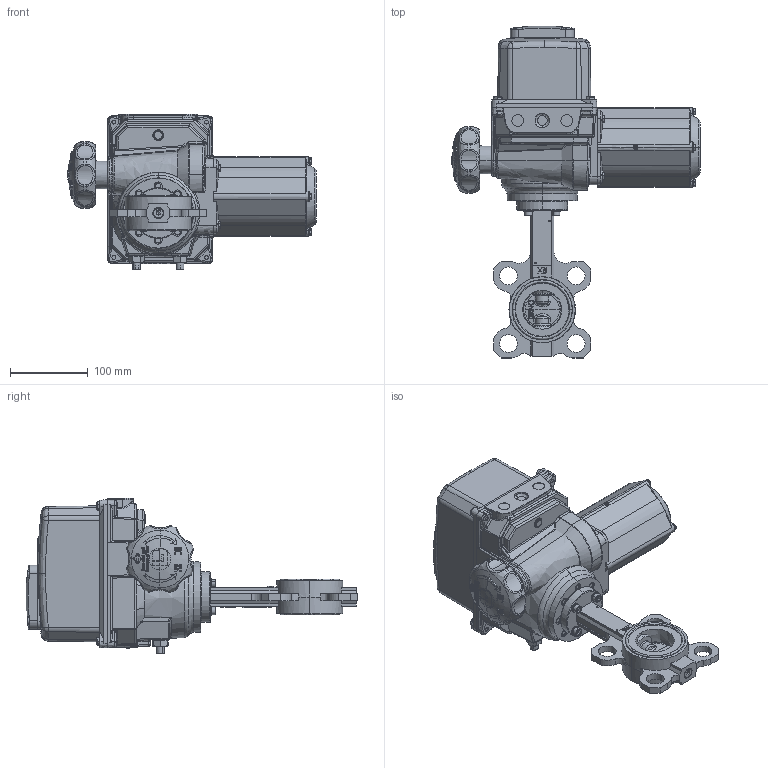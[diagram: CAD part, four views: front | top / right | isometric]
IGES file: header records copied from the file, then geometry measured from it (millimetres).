
Start section: SolidWorks IGES file using NURBS representation for surfaces
Global section: file name: H:\BE BIBLIOTHEQUE 3D\Projet_Biblio3D_2016\FSK\VPI\VPI-B04\VPI-B04 DN50.Igs; native system: SolidWorks 2014; preprocessor: SolidWorks 2014; author: a.cartier; date: 160929.163820; units: millimetre
Bounding box: 319.25 x 426.7 x 199.8 mm (x, y, z)
Volume: 5234410 mm3; surface area: 320410 mm2
Topology: 14 solids, 14 shells, 2736 faces, 7147 edges, 4484 vertices
Faces by surface type: bspline 2736
